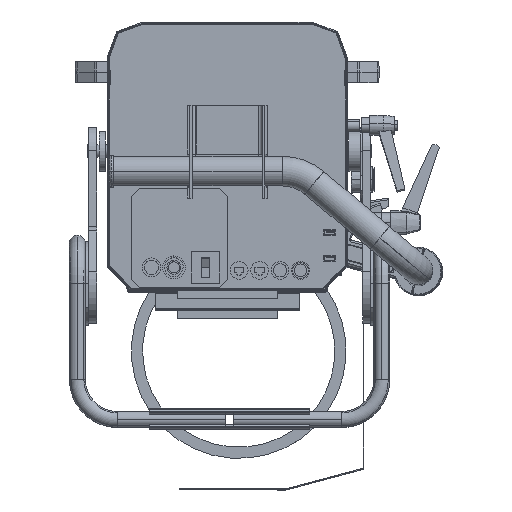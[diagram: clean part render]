
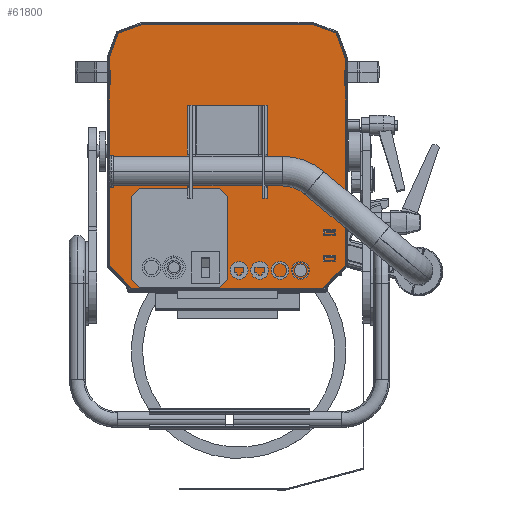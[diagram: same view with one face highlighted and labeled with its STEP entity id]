
A CAD part, top view. The second image highlights one B-rep face of the part: STEP entity #61800.
In plain terms, the highlighted planar face has unit normal (0, 0, 1).
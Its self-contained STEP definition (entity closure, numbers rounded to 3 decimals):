
#906 = CARTESIAN_POINT ( 'NONE',  ( 0., -173.35, 272.1 ) ) ;
#1253 = CARTESIAN_POINT ( 'NONE',  ( 148.35, -144.374, 272.1 ) ) ;
#5960 = VERTEX_POINT ( 'NONE', #52561 ) ;
#6433 = ORIENTED_EDGE ( 'NONE', *, *, #59072, .T. ) ;
#6645 = AXIS2_PLACEMENT_3D ( 'NONE', #48356, #11868, #70712 ) ;
#7937 = DIRECTION ( 'NONE',  ( 0.94, 0.342, 0. ) ) ;
#7971 = LINE ( 'NONE', #37178, #60383 ) ;
#10982 = ORIENTED_EDGE ( 'NONE', *, *, #33940, .F. ) ;
#11868 = DIRECTION ( 'NONE',  ( 0., 0., -1. ) ) ;
#12320 = ORIENTED_EDGE ( 'NONE', *, *, #37155, .F. ) ;
#13011 = PLANE ( 'NONE',  #6645 ) ;
#13612 = VERTEX_POINT ( 'NONE', #69691 ) ;
#13714 = LINE ( 'NONE', #37145, #53078 ) ;
#14012 = VERTEX_POINT ( 'NONE', #59169 ) ;
#15152 = CARTESIAN_POINT ( 'NONE',  ( -136.705, 146.705, 272.1 ) ) ;
#15734 = LINE ( 'NONE', #34501, #45078 ) ;
#15917 = ORIENTED_EDGE ( 'NONE', *, *, #62581, .T. ) ;
#15998 = CARTESIAN_POINT ( 'NONE',  ( -148.35, 114.709, 272.1 ) ) ;
#16192 = CARTESIAN_POINT ( 'NONE',  ( 148.35, -144.317, 272.1 ) ) ;
#18705 = EDGE_CURVE ( 'NONE', #20210, #14012, #15734, .T. ) ;
#19244 = CARTESIAN_POINT ( 'NONE',  ( 148.35, 114.709, 272.1 ) ) ;
#20210 = VERTEX_POINT ( 'NONE', #39151 ) ;
#20731 = DIRECTION ( 'NONE',  ( 0.342, 0.94, 0. ) ) ;
#23320 = VERTEX_POINT ( 'NONE', #36489 ) ;
#23536 = VECTOR ( 'NONE', #35651, 1000. ) ;
#23762 = FACE_OUTER_BOUND ( 'NONE', #41466, .T. ) ;
#24348 = DIRECTION ( 'NONE',  ( 1., 0., 0. ) ) ;
#24534 = LINE ( 'NONE', #36045, #23536 ) ;
#25251 = VERTEX_POINT ( 'NONE', #15152 ) ;
#27999 = EDGE_CURVE ( 'NONE', #25251, #23320, #13714, .T. ) ;
#31358 = CARTESIAN_POINT ( 'NONE',  ( -148.35, -144.374, 272.1 ) ) ;
#31536 = DIRECTION ( 'NONE',  ( 0., 1., 0. ) ) ;
#31755 = DIRECTION ( 'NONE',  ( 0., 1., 0. ) ) ;
#33701 = VECTOR ( 'NONE', #40081, 1000. ) ;
#33940 = EDGE_CURVE ( 'NONE', #13612, #25251, #49924, .T. ) ;
#34062 = ORIENTED_EDGE ( 'NONE', *, *, #67633, .T. ) ;
#34501 = CARTESIAN_POINT ( 'NONE',  ( -119.276, -173.391, 272.1 ) ) ;
#35408 = VERTEX_POINT ( 'NONE', #16192 ) ;
#35651 = DIRECTION ( 'NONE',  ( 0.707, 0.707, 0. ) ) ;
#35993 = ORIENTED_EDGE ( 'NONE', *, *, #27999, .F. ) ;
#36045 = CARTESIAN_POINT ( 'NONE',  ( 119.276, -173.391, 272.1 ) ) ;
#36267 = VECTOR ( 'NONE', #47316, 1000. ) ;
#36489 = CARTESIAN_POINT ( 'NONE',  ( -104.709, 158.35, 272.1 ) ) ;
#37145 = CARTESIAN_POINT ( 'NONE',  ( -136.776, 146.679, 272.1 ) ) ;
#37155 = EDGE_CURVE ( 'NONE', #14012, #13612, #42187, .T. ) ;
#37178 = CARTESIAN_POINT ( 'NONE',  ( 136.776, 146.679, 272.1 ) ) ;
#37506 = VERTEX_POINT ( 'NONE', #73251 ) ;
#39151 = CARTESIAN_POINT ( 'NONE',  ( -119.317, -173.35, 272.1 ) ) ;
#40081 = DIRECTION ( 'NONE',  ( -1., 0., 0. ) ) ;
#40985 = VERTEX_POINT ( 'NONE', #41551 ) ;
#41466 = EDGE_LOOP ( 'NONE', ( #6433, #34062, #15917, #68334, #63979, #35993, #10982, #12320, #68864, #71523 ) ) ;
#41551 = CARTESIAN_POINT ( 'NONE',  ( 119.317, -173.35, 272.1 ) ) ;
#42187 = LINE ( 'NONE', #31358, #57358 ) ;
#43588 = VECTOR ( 'NONE', #20731, 1000. ) ;
#44732 = LINE ( 'NONE', #62421, #33701 ) ;
#45078 = VECTOR ( 'NONE', #74579, 1000. ) ;
#47316 = DIRECTION ( 'NONE',  ( -0.342, 0.94, 0. ) ) ;
#48356 = CARTESIAN_POINT ( 'NONE',  ( 0., 0., 272.1 ) ) ;
#48837 = LINE ( 'NONE', #19244, #36267 ) ;
#49485 = DIRECTION ( 'NONE',  ( -0.94, 0.342, 0. ) ) ;
#49924 = LINE ( 'NONE', #15998, #43588 ) ;
#52561 = CARTESIAN_POINT ( 'NONE',  ( 148.35, 114.709, 272.1 ) ) ;
#53078 = VECTOR ( 'NONE', #7937, 1000. ) ;
#53871 = VECTOR ( 'NONE', #31536, 1000. ) ;
#53902 = LINE ( 'NONE', #1253, #53871 ) ;
#57358 = VECTOR ( 'NONE', #31755, 1000. ) ;
#59072 = EDGE_CURVE ( 'NONE', #40985, #35408, #24534, .T. ) ;
#59169 = CARTESIAN_POINT ( 'NONE',  ( -148.35, -144.317, 272.1 ) ) ;
#59274 = EDGE_CURVE ( 'NONE', #65340, #37506, #7971, .T. ) ;
#60383 = VECTOR ( 'NONE', #49485, 1000. ) ;
#61800 = ADVANCED_FACE ( 'NONE', ( #23762 ), #13011, .F. ) ;
#62421 = CARTESIAN_POINT ( 'NONE',  ( 104.709, 158.35, 272.1 ) ) ;
#62581 = EDGE_CURVE ( 'NONE', #5960, #65340, #48837, .T. ) ;
#62758 = VECTOR ( 'NONE', #24348, 1000. ) ;
#63979 = ORIENTED_EDGE ( 'NONE', *, *, #73603, .T. ) ;
#65222 = EDGE_CURVE ( 'NONE', #20210, #40985, #66602, .T. ) ;
#65340 = VERTEX_POINT ( 'NONE', #72776 ) ;
#66602 = LINE ( 'NONE', #906, #62758 ) ;
#67633 = EDGE_CURVE ( 'NONE', #35408, #5960, #53902, .T. ) ;
#68334 = ORIENTED_EDGE ( 'NONE', *, *, #59274, .T. ) ;
#68864 = ORIENTED_EDGE ( 'NONE', *, *, #18705, .F. ) ;
#69691 = CARTESIAN_POINT ( 'NONE',  ( -148.35, 114.709, 272.1 ) ) ;
#70712 = DIRECTION ( 'NONE',  ( -1., 0., 0. ) ) ;
#71523 = ORIENTED_EDGE ( 'NONE', *, *, #65222, .T. ) ;
#72776 = CARTESIAN_POINT ( 'NONE',  ( 136.705, 146.705, 272.1 ) ) ;
#73251 = CARTESIAN_POINT ( 'NONE',  ( 104.709, 158.35, 272.1 ) ) ;
#73603 = EDGE_CURVE ( 'NONE', #37506, #23320, #44732, .T. ) ;
#74579 = DIRECTION ( 'NONE',  ( -0.707, 0.707, 0. ) ) ;
